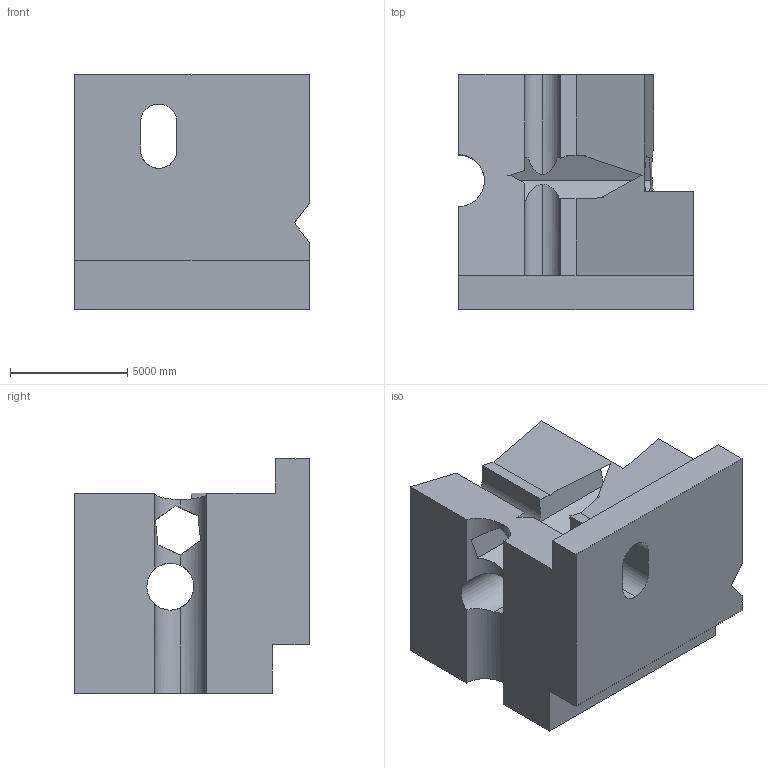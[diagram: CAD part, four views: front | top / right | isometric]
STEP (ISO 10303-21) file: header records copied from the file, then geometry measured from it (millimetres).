
FILE_DESCRIPTION (( 'STEP AP203' ), '1' );
FILE_NAME ('1940.STEP', '2022-08-23T09:44:17', ( 'user' ), ( '' ), 'SwSTEP 2.0', 'SolidWorks 2021', '' );
FILE_SCHEMA (( 'CONFIG_CONTROL_DESIGN' ));
Length unit declared in the file: centimetre
Products named in the file (1): 1940
Bounding box: 10000 x 10000 x 10000 mm (x, y, z)
Volume: 606199406668.9 mm3; surface area: 691599409.2 mm2
Topology: 1 solids, 1 shells, 58 faces, 180 edges, 120 vertices
Faces by surface type: plane 44, cylinder 14
Entity records: 2322 total; most frequent: CARTESIAN_POINT 688, ORIENTED_EDGE 360, DIRECTION 287, EDGE_CURVE 180, LINE 133, VECTOR 133, VERTEX_POINT 120, AXIS2_PLACEMENT_3D 77
